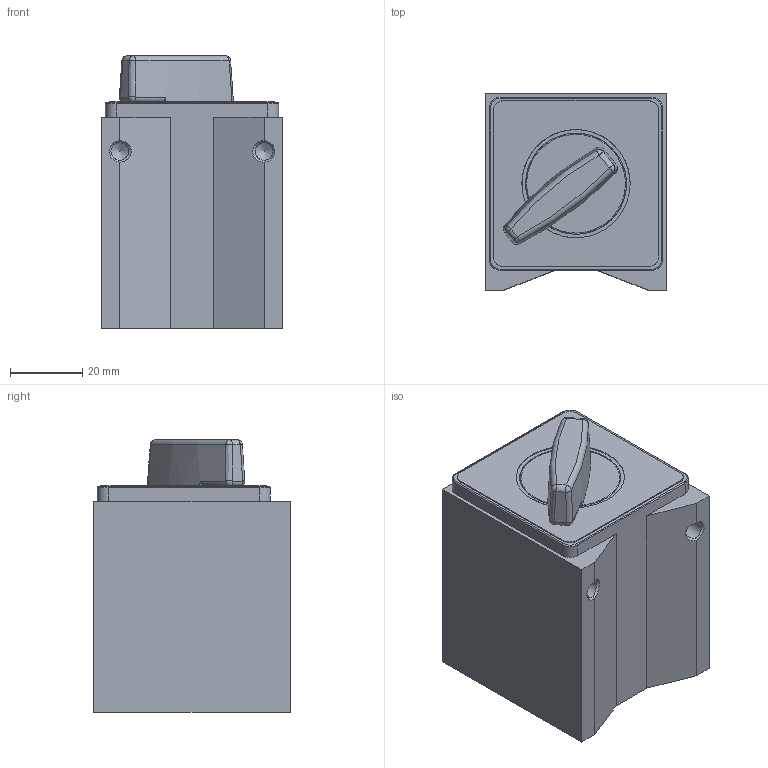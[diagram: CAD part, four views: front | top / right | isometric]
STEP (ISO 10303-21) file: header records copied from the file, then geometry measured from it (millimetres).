
FILE_DESCRIPTION(/* description */ (''),/* implementation_level */ '2;1');
FILE_NAME(/* name */ 'LA-9936-0632-A MAGNETIC BASE.stp',/* time_stamp */ '2021-04-06T14:22:33+01:00',/* author */ (''),/* organization */ (''),/* preprocessor_version */ 'ST-DEVELOPER v16.7',/* originating_system */ 'SIEMENS PLM Software NX 1942',/* authorisation */ '');
FILE_SCHEMA (('AUTOMOTIVE_DESIGN { 1 0 10303 214 3 1 1 1 }'));
Length unit declared in the file: millimetre
Products named in the file (1): LA-9936-0632-A_MAGNETIC BASE
Bounding box: 50 x 54.5 x 75.5 mm (x, y, z)
Volume: 163144.1 mm3; surface area: 20431.7 mm2
Topology: 1 solids, 1 shells, 93 faces, 246 edges, 151 vertices
Faces by surface type: cylinder 28, plane 24, cone 20, torus 9, sphere 6, bspline 6
Full cylindrical faces by diameter (mm): 4.917 x9
Entity records: 3657 total; most frequent: CARTESIAN_POINT 1716, ORIENTED_EDGE 394, EDGE_CURVE 197, B_SPLINE_CURVE_WITH_KNOTS 192, DIRECTION 185, VERTEX_POINT 140, EDGE_LOOP 118, ADVANCED_FACE 93
